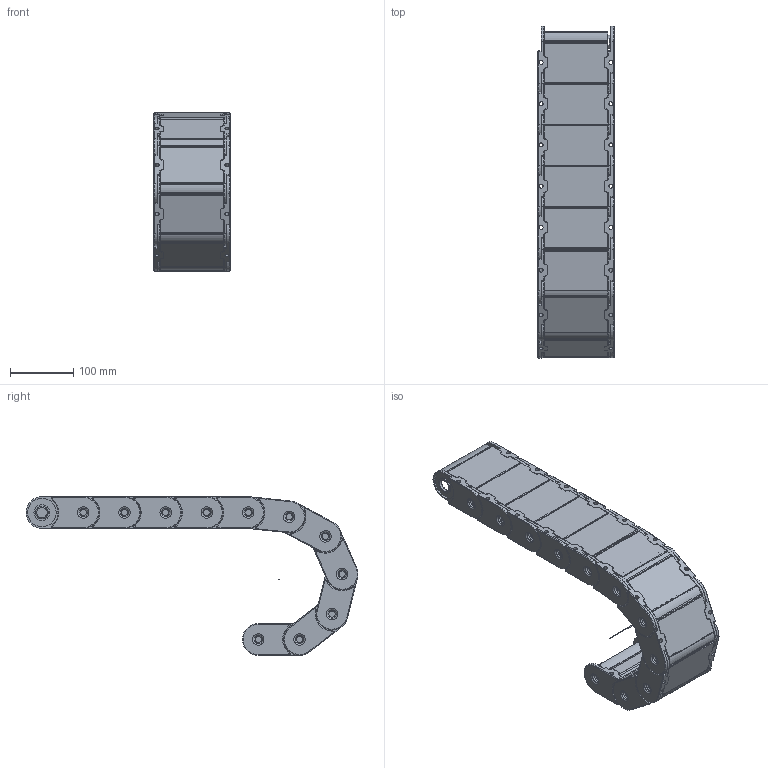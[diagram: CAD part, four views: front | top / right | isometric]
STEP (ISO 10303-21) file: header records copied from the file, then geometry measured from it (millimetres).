
FILE_DESCRIPTION((''),'2;1');
FILE_NAME('C:\Uebbing\TRACE PARTS\PKK\PKK 215\PKK 215 vereinfacht.stp','2013-05-02T11:30:21',('Uebbing'),(''),'Autodesk Inventor 10','Autodesk Inventor 10','');
FILE_SCHEMA(('AUTOMOTIVE_DESIGN { 1 0 10303 214 1 1 1 1 }'));
Length unit declared in the file: millimetre
Products named in the file (6): PKK 215 PARAMETRISCH; Achse; PKK 215 Glied vereinfacht; PKK 210 Lasche vereinfacht; PKK 225 ASI 100vereinfacht; PKK 225 ASA100vereinfacht
Assembly tree (16 placements, depth 3):
  PKK 215 PARAMETRISCH
    Achse
    PKK 215 Glied vereinfacht  x11
      PKK 210 Lasche vereinfacht
      PKK 225 ASI 100vereinfacht
      PKK 225 ASA100vereinfacht
Bounding box: 120 x 523.06 x 250 mm (x, y, z)
Volume: 986312.5 mm3; surface area: 719771.9 mm2
Topology: 45 solids, 45 shells, 2808 faces, 7143 edges, 4513 vertices
Faces by surface type: plane 1190, cylinder 1156, bspline 264, torus 154, sphere 44
Full cylindrical faces by diameter (mm): 1 x1, 6.3 x22, 14 x22, 20.1 x22, 20.309 x22, 25 x44, 45 x44
Entity records: 5874 total; most frequent: CARTESIAN_POINT 1245, DIRECTION 965, ORIENTED_EDGE 898, EDGE_CURVE 449, AXIS2_PLACEMENT_3D 335, VERTEX_POINT 298, VECTOR 295, LINE 295
